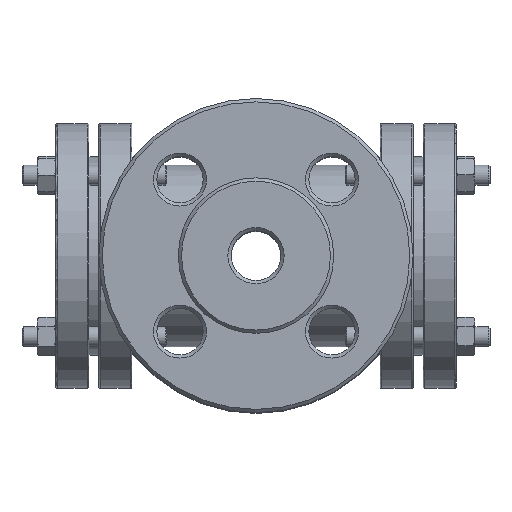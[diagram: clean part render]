
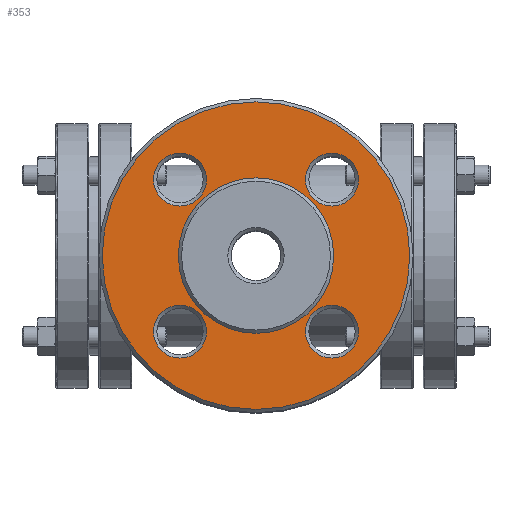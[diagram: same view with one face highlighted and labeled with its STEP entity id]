
A CAD part, top view. The second image highlights one B-rep face of the part: STEP entity #353.
In plain terms, the highlighted planar face has unit normal (0, 0, 1).
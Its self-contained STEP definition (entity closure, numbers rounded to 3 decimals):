
#353=ADVANCED_FACE('',(#2960,#2962,#2964,#2966,#2968,#2970),#2972,.T.);
#2960=FACE_BOUND('',#2961,.T.);
#2961=EDGE_LOOP('',(#8222));
#2962=FACE_BOUND('',#2963,.T.);
#2963=EDGE_LOOP('',(#8223));
#2964=FACE_BOUND('',#2965,.T.);
#2965=EDGE_LOOP('',(#8224));
#2966=FACE_BOUND('',#2967,.T.);
#2967=EDGE_LOOP('',(#8225));
#2968=FACE_BOUND('',#2969,.T.);
#2969=EDGE_LOOP('',(#8226));
#2970=FACE_BOUND('',#2971,.T.);
#2971=EDGE_LOOP('',(#8227));
#2972=PLANE('',#2973);
#2973=AXIS2_PLACEMENT_3D('',#2974,#2975,#2976);
#2974=CARTESIAN_POINT('',(0.,0.,64.612));
#2975=DIRECTION('',(0.,0.,1.));
#2976=DIRECTION('',(1.,0.,0.));
#8222=ORIENTED_EDGE('',*,*,#10412,.F.);
#8223=ORIENTED_EDGE('',*,*,#10357,.F.);
#8224=ORIENTED_EDGE('',*,*,#10413,.T.);
#8225=ORIENTED_EDGE('',*,*,#10414,.T.);
#8226=ORIENTED_EDGE('',*,*,#10415,.F.);
#8227=ORIENTED_EDGE('',*,*,#10416,.F.);
#10357=EDGE_CURVE('',#11556,#11556,#11557,.T.);
#10412=EDGE_CURVE('',#11642,#11642,#11643,.T.);
#10413=EDGE_CURVE('',#11644,#11644,#11645,.T.);
#10414=EDGE_CURVE('',#11646,#11646,#11647,.T.);
#10415=EDGE_CURVE('',#11648,#11648,#11649,.T.);
#10416=EDGE_CURVE('',#11650,#11650,#11651,.T.);
#11556=VERTEX_POINT('',#14952);
#11557=CIRCLE('',#14953,23.5);
#11642=VERTEX_POINT('',#16171);
#11643=CIRCLE('',#16172,46.5);
#11644=VERTEX_POINT('',#16176);
#11645=CIRCLE('',#16177,8.);
#11646=VERTEX_POINT('',#16181);
#11647=CIRCLE('',#16182,8.);
#11648=VERTEX_POINT('',#16186);
#11649=CIRCLE('',#16187,8.);
#11650=VERTEX_POINT('',#16191);
#11651=CIRCLE('',#16192,8.);
#14952=CARTESIAN_POINT('',(23.5,0.,64.612));
#14953=AXIS2_PLACEMENT_3D('',#14954,#14955,#14956);
#14954=CARTESIAN_POINT('',(0.,0.,64.612));
#14955=DIRECTION('',(0.,0.,1.));
#14956=DIRECTION('',(1.,0.,0.));
#16171=CARTESIAN_POINT('',(46.5,0.,64.612));
#16172=AXIS2_PLACEMENT_3D('',#16173,#16174,#16175);
#16173=CARTESIAN_POINT('',(0.,0.,64.612));
#16174=DIRECTION('',(0.,0.,-1.));
#16175=DIRECTION('',(1.,0.,0.));
#16176=CARTESIAN_POINT('',(-30.981,22.981,64.612));
#16177=AXIS2_PLACEMENT_3D('',#16178,#16179,#16180);
#16178=CARTESIAN_POINT('',(-22.981,22.981,64.612));
#16179=DIRECTION('',(0.,0.,-1.));
#16180=DIRECTION('',(-1.,0.,0.));
#16181=CARTESIAN_POINT('',(-30.981,-22.981,64.612));
#16182=AXIS2_PLACEMENT_3D('',#16183,#16184,#16185);
#16183=CARTESIAN_POINT('',(-22.981,-22.981,64.612));
#16184=DIRECTION('',(0.,0.,-1.));
#16185=DIRECTION('',(-1.,0.,0.));
#16186=CARTESIAN_POINT('',(30.981,-22.981,64.612));
#16187=AXIS2_PLACEMENT_3D('',#16188,#16189,#16190);
#16188=CARTESIAN_POINT('',(22.981,-22.981,64.612));
#16189=DIRECTION('',(0.,0.,1.));
#16190=DIRECTION('',(1.,0.,0.));
#16191=CARTESIAN_POINT('',(30.981,22.981,64.612));
#16192=AXIS2_PLACEMENT_3D('',#16193,#16194,#16195);
#16193=CARTESIAN_POINT('',(22.981,22.981,64.612));
#16194=DIRECTION('',(0.,0.,1.));
#16195=DIRECTION('',(1.,0.,0.));
